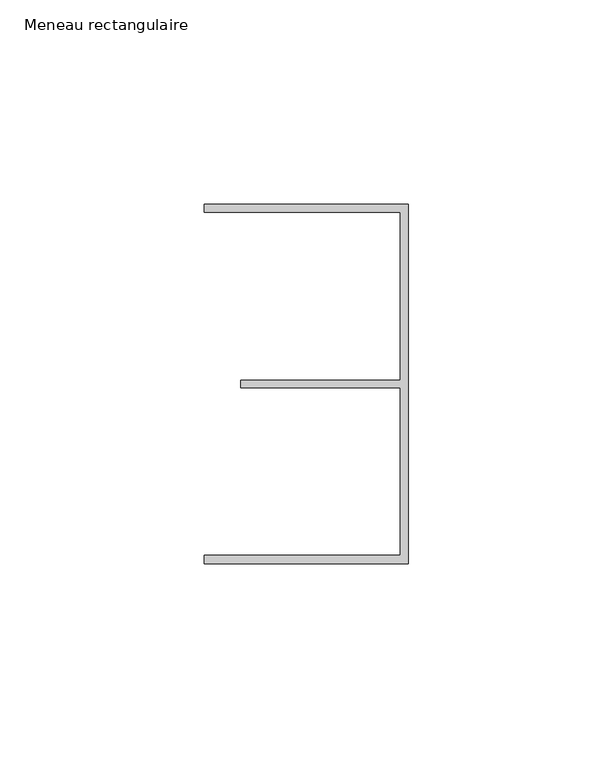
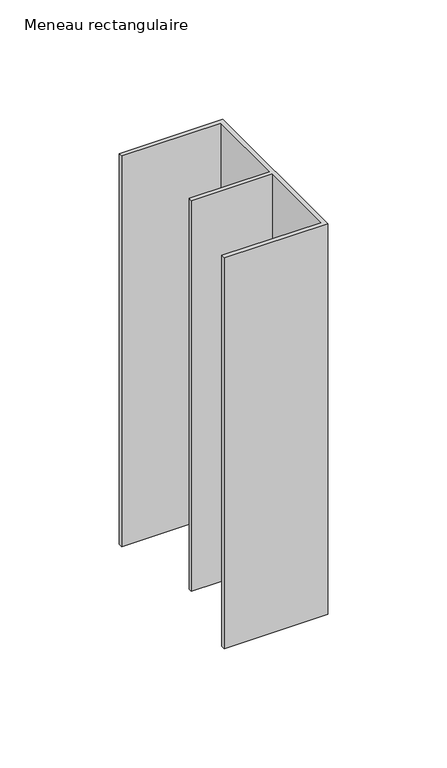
"""IFC4 building model written with IfcOpenShell, lengths in millimetres: member geometry, Meneau rectangulaire : LISSERIE_SOL_COIFFANTE 94-KLS00-P80-SD41ALU."""

from ifc_helpers import new_model, si_unit, frame, origin, place, context, project, spatial, polyline, outline, extrude, source, transform, mapped, element, save


def meneau_rectangulaire_d777ce07(model_context):
    return source(origin(), model_context, "Body", "SweptSolid", [
        extrude(outline(polyline([(0.0, -44.0), (-50.0, -44.0), (-50.0, -42.0), (-2.0, -42.0), (-2.0, -0.9316478), (-41.0, -0.9316478), (-41.0, 0.9316478), (-2.0, 0.9316478), (-2.0, 42.0), (-50.0, 42.0), (-50.0, 44.0), (0.0, 44.0), (0.0, -44.0)])), frame((0.0, 0.0, -200.0), z_axis=(0.0, 0.0, 1.0), x_axis=(1.0, 0.0, 0.0)), (0.0, 0.0, 1.0), 200.0),
    ])


if __name__ == "__main__":
    model = new_model("IFC4")
    model_context = context("Model", 3, world=origin())
    ifc_project = project(units=[si_unit("LENGTHUNIT", "METRE", prefix="MILLI")], contexts=[model_context])
    site = spatial("IfcSite", under=ifc_project)
    building = spatial("IfcBuilding", under=site)
    placement = place(None, origin())
    meneau_rectangulaire_shape = meneau_rectangulaire_d777ce07(model_context)
    element("IfcMember", 1, ObjectType="Meneau rectangulaire : LISSERIE_SOL_COIFFANTE 94-KLS00-P80-SD41ALU", at=placement, inside=building, context=model_context, shape_type="MappedRepresentation", body=[
        mapped(meneau_rectangulaire_shape, transform((0.0, 0.0, 0.0), x_axis=(1.0, 0.0, 0.0), y_axis=(0.0, 1.0, 0.0), z_axis=(0.0, 0.0, 1.0))),
    ])
    save(model, "model.ifc")
